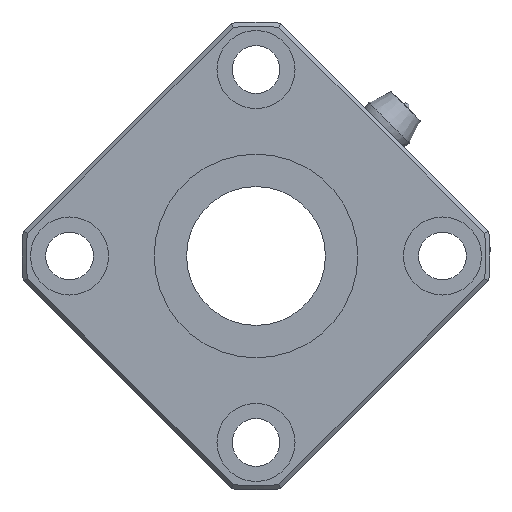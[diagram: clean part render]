
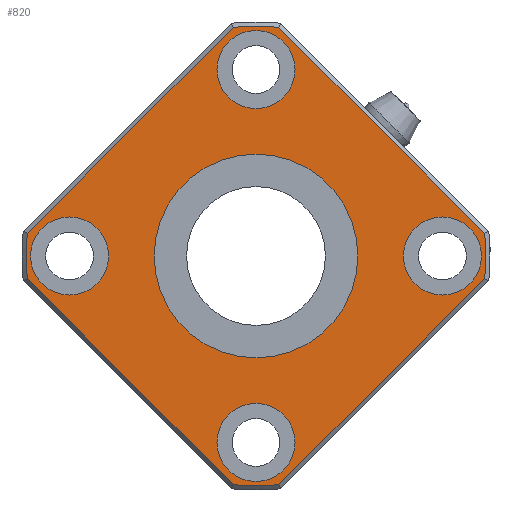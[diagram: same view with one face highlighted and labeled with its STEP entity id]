
A CAD part, left-side view. The second image highlights one B-rep face of the part: STEP entity #820.
In plain terms, the highlighted planar face has unit normal (-1, 0, 0).
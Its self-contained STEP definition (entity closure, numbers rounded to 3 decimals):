
#499=CARTESIAN_POINT('',(0.0,-26.37,-2.621));
#500=VERTEX_POINT('',#499);
#508=CARTESIAN_POINT('',(0.0,-2.621,-26.37));
#509=VERTEX_POINT('',#508);
#510=CARTESIAN_POINT('',(0.0,-26.37,-2.621));
#511=DIRECTION('',(0.0,0.707,-0.707));
#512=VECTOR('',#511,33.586);
#513=LINE('',#510,#512);
#514=EDGE_CURVE('',#500,#509,#513,.T.);
#541=CARTESIAN_POINT('',(0.0,2.621,-26.37));
#542=VERTEX_POINT('',#541);
#543=CARTESIAN_POINT('',(0.0,0.0,0.0));
#544=DIRECTION('',(1.0,0.0,0.0));
#545=DIRECTION('',(0.0,0.0,-1.0));
#546=AXIS2_PLACEMENT_3D('',#543,#544,#545);
#547=CIRCLE('',#546,26.5);
#548=EDGE_CURVE('',#509,#542,#547,.T.);
#572=CARTESIAN_POINT('',(0.0,26.37,-2.621));
#573=VERTEX_POINT('',#572);
#574=CARTESIAN_POINT('',(0.0,2.621,-26.37));
#575=DIRECTION('',(0.0,0.707,0.707));
#576=VECTOR('',#575,33.586);
#577=LINE('',#574,#576);
#578=EDGE_CURVE('',#542,#573,#577,.T.);
#597=CARTESIAN_POINT('',(0.0,26.37,2.621));
#598=VERTEX_POINT('',#597);
#599=CARTESIAN_POINT('',(0.0,0.0,0.0));
#600=DIRECTION('',(1.0,0.0,0.0));
#601=DIRECTION('',(0.0,0.0,1.0));
#602=AXIS2_PLACEMENT_3D('',#599,#600,#601);
#603=CIRCLE('',#602,26.5);
#604=EDGE_CURVE('',#573,#598,#603,.T.);
#623=CARTESIAN_POINT('',(0.0,2.621,26.37));
#624=VERTEX_POINT('',#623);
#625=CARTESIAN_POINT('',(0.0,26.37,2.621));
#626=DIRECTION('',(0.0,-0.707,0.707));
#627=VECTOR('',#626,33.586);
#628=LINE('',#625,#627);
#629=EDGE_CURVE('',#598,#624,#628,.T.);
#648=CARTESIAN_POINT('',(0.0,-2.621,26.37));
#649=VERTEX_POINT('',#648);
#650=CARTESIAN_POINT('',(0.0,0.0,0.0));
#651=DIRECTION('',(1.0,0.0,0.0));
#652=DIRECTION('',(0.0,0.0,1.0));
#653=AXIS2_PLACEMENT_3D('',#650,#651,#652);
#654=CIRCLE('',#653,26.5);
#655=EDGE_CURVE('',#624,#649,#654,.T.);
#674=CARTESIAN_POINT('',(0.0,-26.37,2.621));
#675=VERTEX_POINT('',#674);
#676=CARTESIAN_POINT('',(0.0,-2.621,26.37));
#677=DIRECTION('',(0.0,-0.707,-0.707));
#678=VECTOR('',#677,33.586);
#679=LINE('',#676,#678);
#680=EDGE_CURVE('',#649,#675,#679,.T.);
#705=CARTESIAN_POINT('',(0.0,0.0,0.0));
#706=DIRECTION('',(1.0,0.0,0.0));
#707=DIRECTION('',(0.0,0.0,1.0));
#708=AXIS2_PLACEMENT_3D('',#705,#706,#707);
#709=CIRCLE('',#708,26.5);
#710=EDGE_CURVE('',#675,#500,#709,.T.);
#750=CARTESIAN_POINT('',(0.0,0.0,13.875));
#751=DIRECTION('',(-1.0,0.0,0.0));
#752=DIRECTION('',(0.0,0.0,1.0));
#753=AXIS2_PLACEMENT_3D('',#750,#751,#752);
#754=PLANE('',#753);
#755=ORIENTED_EDGE('',*,*,#514,.F.);
#756=ORIENTED_EDGE('',*,*,#710,.F.);
#757=ORIENTED_EDGE('',*,*,#680,.F.);
#758=ORIENTED_EDGE('',*,*,#655,.F.);
#759=ORIENTED_EDGE('',*,*,#629,.F.);
#760=ORIENTED_EDGE('',*,*,#604,.F.);
#761=ORIENTED_EDGE('',*,*,#578,.F.);
#762=ORIENTED_EDGE('',*,*,#548,.F.);
#763=EDGE_LOOP('',(#755,#756,#757,#758,#759,#760,#761,#762));
#764=FACE_OUTER_BOUND('',#763,.T.);
#765=CARTESIAN_POINT('',(0.0,0.0,11.75));
#766=VERTEX_POINT('',#765);
#767=CARTESIAN_POINT('',(0.0,0.0,0.0));
#768=DIRECTION('',(-1.0,0.0,0.0));
#769=DIRECTION('',(0.0,0.0,1.0));
#770=AXIS2_PLACEMENT_3D('',#767,#768,#769);
#771=CIRCLE('',#770,11.75);
#772=EDGE_CURVE('',#766,#766,#771,.T.);
#773=ORIENTED_EDGE('',*,*,#772,.F.);
#774=EDGE_LOOP('',(#773));
#775=FACE_BOUND('',#774,.T.);
#776=CARTESIAN_POINT('',(0.0,-17.0,0.));
#777=VERTEX_POINT('',#776);
#778=CARTESIAN_POINT('',(0.0,-21.5,0.));
#779=DIRECTION('',(1.0,0.0,0.0));
#780=DIRECTION('',(0.0,1.0,0.0));
#781=AXIS2_PLACEMENT_3D('',#778,#779,#780);
#782=CIRCLE('',#781,4.5);
#783=EDGE_CURVE('',#777,#777,#782,.T.);
#784=ORIENTED_EDGE('',*,*,#783,.T.);
#785=EDGE_LOOP('',(#784));
#786=FACE_BOUND('',#785,.T.);
#787=CARTESIAN_POINT('',(0.0,26.0,0.));
#788=VERTEX_POINT('',#787);
#789=CARTESIAN_POINT('',(0.0,21.5,0.));
#790=DIRECTION('',(1.0,0.0,0.0));
#791=DIRECTION('',(0.0,1.0,0.0));
#792=AXIS2_PLACEMENT_3D('',#789,#790,#791);
#793=CIRCLE('',#792,4.5);
#794=EDGE_CURVE('',#788,#788,#793,.T.);
#795=ORIENTED_EDGE('',*,*,#794,.T.);
#796=EDGE_LOOP('',(#795));
#797=FACE_BOUND('',#796,.T.);
#798=CARTESIAN_POINT('',(0.0,4.5,21.5));
#799=VERTEX_POINT('',#798);
#800=CARTESIAN_POINT('',(0.0,0.,21.5));
#801=DIRECTION('',(1.0,0.0,0.0));
#802=DIRECTION('',(0.0,1.0,0.0));
#803=AXIS2_PLACEMENT_3D('',#800,#801,#802);
#804=CIRCLE('',#803,4.5);
#805=EDGE_CURVE('',#799,#799,#804,.T.);
#806=ORIENTED_EDGE('',*,*,#805,.T.);
#807=EDGE_LOOP('',(#806));
#808=FACE_BOUND('',#807,.T.);
#809=CARTESIAN_POINT('',(0.0,4.5,-21.5));
#810=VERTEX_POINT('',#809);
#811=CARTESIAN_POINT('',(0.0,0.,-21.5));
#812=DIRECTION('',(1.0,0.0,0.0));
#813=DIRECTION('',(0.0,1.0,0.0));
#814=AXIS2_PLACEMENT_3D('',#811,#812,#813);
#815=CIRCLE('',#814,4.5);
#816=EDGE_CURVE('',#810,#810,#815,.T.);
#817=ORIENTED_EDGE('',*,*,#816,.T.);
#818=EDGE_LOOP('',(#817));
#819=FACE_BOUND('',#818,.T.);
#820=ADVANCED_FACE('',(#764,#775,#786,#797,#808,#819),#754,.T.);
